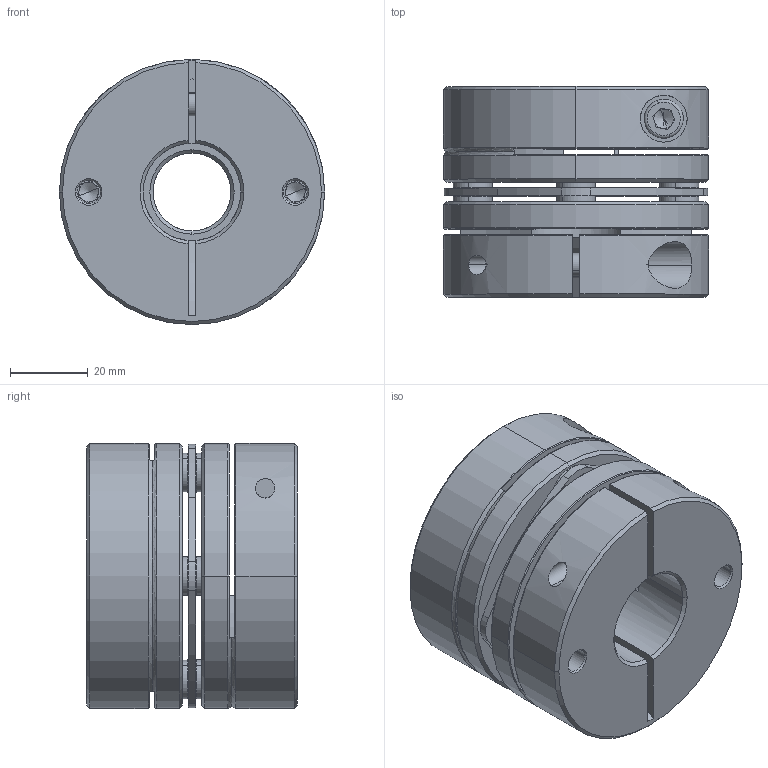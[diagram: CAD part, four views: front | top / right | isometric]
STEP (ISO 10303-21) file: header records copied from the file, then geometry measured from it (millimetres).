
FILE_DESCRIPTION (( 'STEP AP203' ), '1' );
FILE_NAME ('LD1-D68-20-25.STEP', '2021-10-26T07:57:55', ( '' ), ( '' ), 'SwSTEP 2.0', 'SolidWorks 2018', '' );
FILE_SCHEMA (( 'CONFIG_CONTROL_DESIGN' ));
Length unit declared in the file: millimetre
Products named in the file (2): LD1-D68-20-25; 錨璃101^LD1-D68
Assembly tree (1 placements, depth 2):
  LD1-D68-20-25
    錨璃101^LD1-D68
Bounding box: 68 x 54 x 68 mm (x, y, z)
Volume: 146993.5 mm3; surface area: 46496.1 mm2
Topology: 1 solids, 15 shells, 445 faces, 1059 edges, 650 vertices
Faces by surface type: cylinder 163, plane 138, cone 122, torus 22
Entity records: 13459 total; most frequent: CARTESIAN_POINT 2611, DIRECTION 2433, ORIENTED_EDGE 2086, EDGE_CURVE 1043, AXIS2_PLACEMENT_3D 988, VERTEX_POINT 650, CIRCLE 539, EDGE_LOOP 525
